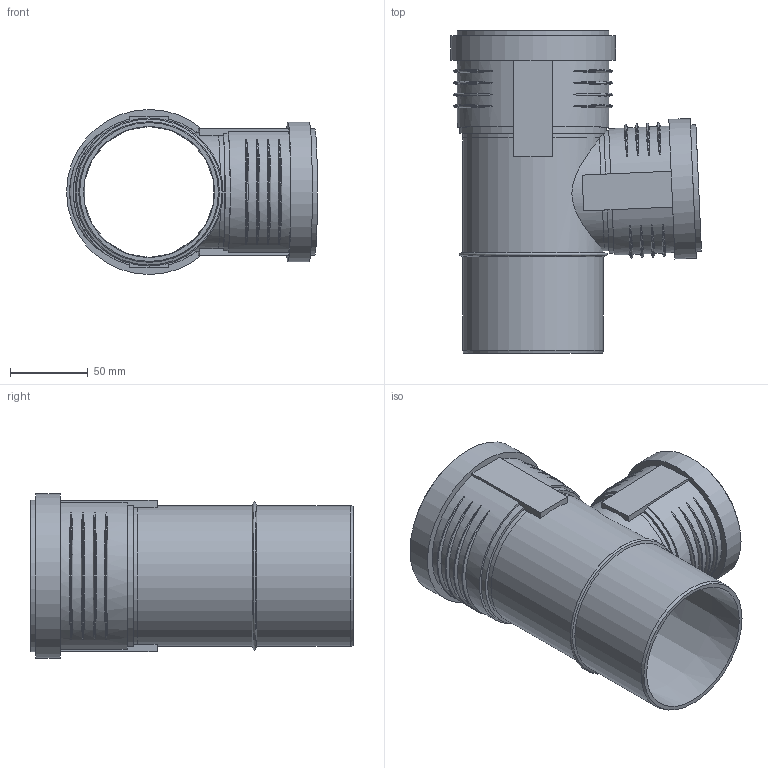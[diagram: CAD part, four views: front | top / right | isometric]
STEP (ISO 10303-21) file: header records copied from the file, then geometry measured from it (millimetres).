
FILE_DESCRIPTION(/* description */ (''),/* implementation_level */ '2;1');
FILE_NAME(/* name */ 'Z:\Geberit\Export\NewStep\390449.stp',/* time_stamp */ '2014-04-02T08:13:10+02:00',/* author */ ('ML'),/* organization */ (''),/* preprocessor_version */ 'ST-DEVELOPER v15.2',/* originating_system */ 'Autodesk Inventor 2014',/* authorisation */ '');
FILE_SCHEMA (('AUTOMOTIVE_DESIGN { 1 0 10303 214 3 1 1 }'));
Length unit declared in the file: millimetre
Products named in the file (4): 861357; 861402; 861403; 390449
Bounding box: 160.87 x 206.9 x 105.8 mm (x, y, z)
Volume: 243263.5 mm3; surface area: 172012.7 mm2
Topology: 3 solids, 3 shells, 123 faces, 302 edges, 211 vertices
Faces by surface type: torus 50, plane 37, cylinder 30, cone 6
Full cylindrical faces by diameter (mm): 70 x1, 70.2 x1, 75.2 x2, 76.2 x2, 81.2 x1, 84.2 x1, 84.6 x1, 89.6 x1, 90.2 x3, 91.2 x2, 97.2 x1, 99.8 x1, 105.8 x1
Entity records: 5123 total; most frequent: CARTESIAN_POINT 2232, ORIENTED_EDGE 532, DIRECTION 524, EDGE_CURVE 266, AXIS2_PLACEMENT_3D 226, VERTEX_POINT 202, EDGE_LOOP 184, STYLED_ITEM 124
